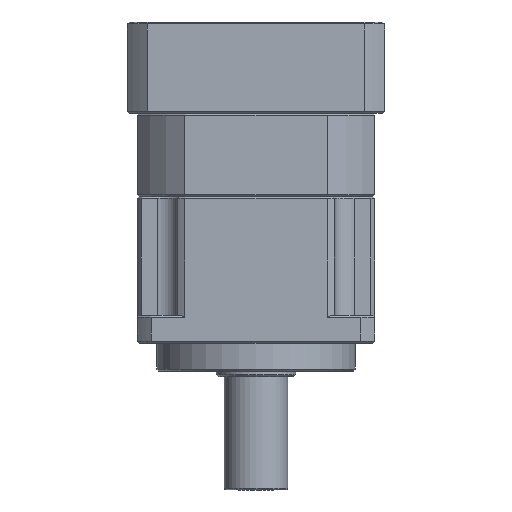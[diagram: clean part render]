
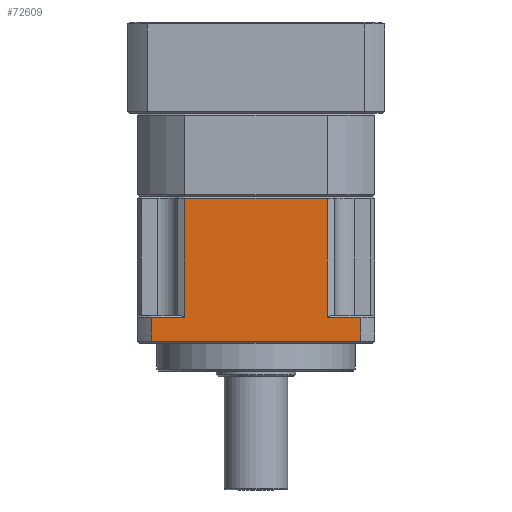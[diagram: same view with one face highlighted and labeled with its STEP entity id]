
A CAD part, front view. The second image highlights one B-rep face of the part: STEP entity #72609.
In plain terms, the highlighted planar face has unit normal (0, -1, 0).
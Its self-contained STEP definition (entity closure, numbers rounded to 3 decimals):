
#328 = CARTESIAN_POINT ( 'NONE',  ( -38.231, -27.039, 110.502 ) ) ;
#4723 = DIRECTION ( 'NONE',  ( 0., 0., 1. ) ) ;
#9610 = DIRECTION ( 'NONE',  ( -1., 0., 0. ) ) ;
#10279 = VECTOR ( 'NONE', #4723, 1000. ) ;
#10462 = LINE ( 'NONE', #35725, #78656 ) ;
#11284 = LINE ( 'NONE', #92076, #52967 ) ;
#15157 = CARTESIAN_POINT ( 'NONE',  ( -46.661, -27.039, 111.002 ) ) ;
#15531 = ORIENTED_EDGE ( 'NONE', *, *, #114365, .F. ) ;
#15756 = CARTESIAN_POINT ( 'NONE',  ( 9.797, -27.039, 80.502 ) ) ;
#16424 = EDGE_CURVE ( 'NONE', #90820, #90130, #10462, .T. ) ;
#20536 = VERTEX_POINT ( 'NONE', #114871 ) ;
#21876 = ORIENTED_EDGE ( 'NONE', *, *, #86902, .F. ) ;
#22777 = CARTESIAN_POINT ( 'NONE',  ( -46.661, -27.039, 74.502 ) ) ;
#22811 = DIRECTION ( 'NONE',  ( 1., 0., 0. ) ) ;
#24662 = DIRECTION ( 'NONE',  ( 1., 0., 0. ) ) ;
#25306 = EDGE_CURVE ( 'NONE', #29678, #88062, #11284, .T. ) ;
#26048 = ORIENTED_EDGE ( 'NONE', *, *, #66383, .F. ) ;
#26269 = LINE ( 'NONE', #15157, #73541 ) ;
#26656 = VECTOR ( 'NONE', #24662, 1000. ) ;
#29678 = VERTEX_POINT ( 'NONE', #58358 ) ;
#31100 = LINE ( 'NONE', #84522, #10279 ) ;
#31752 = ORIENTED_EDGE ( 'NONE', *, *, #25306, .F. ) ;
#33354 = EDGE_CURVE ( 'NONE', #20536, #90130, #31100, .T. ) ;
#35725 = CARTESIAN_POINT ( 'NONE',  ( -50.203, -27.039, 110.502 ) ) ;
#36378 = LINE ( 'NONE', #75645, #59968 ) ;
#36685 = VERTEX_POINT ( 'NONE', #71514 ) ;
#37332 = VERTEX_POINT ( 'NONE', #93523 ) ;
#39450 = DIRECTION ( 'NONE',  ( 0., 1., 0. ) ) ;
#49493 = ORIENTED_EDGE ( 'NONE', *, *, #56479, .F. ) ;
#50753 = LINE ( 'NONE', #98696, #68887 ) ;
#52967 = VECTOR ( 'NONE', #100959, 1000. ) ;
#53057 = LINE ( 'NONE', #15756, #26656 ) ;
#54205 = CARTESIAN_POINT ( 'NONE',  ( 6.254, -27.039, 74.502 ) ) ;
#56479 = EDGE_CURVE ( 'NONE', #37332, #29678, #36378, .T. ) ;
#56942 = PLANE ( 'NONE',  #107056 ) ;
#57797 = EDGE_CURVE ( 'NONE', #91793, #36685, #26269, .T. ) ;
#58358 = CARTESIAN_POINT ( 'NONE',  ( 6.254, -27.039, 80.502 ) ) ;
#59968 = VECTOR ( 'NONE', #22811, 1000. ) ;
#60897 = VECTOR ( 'NONE', #67316, 1000. ) ;
#66383 = EDGE_CURVE ( 'NONE', #88062, #91793, #50753, .T. ) ;
#66786 = FACE_OUTER_BOUND ( 'NONE', #77817, .T. ) ;
#67316 = DIRECTION ( 'NONE',  ( 0., 0., -1. ) ) ;
#68404 = DIRECTION ( 'NONE',  ( 0., 0., 1. ) ) ;
#68887 = VECTOR ( 'NONE', #9610, 1000. ) ;
#71514 = CARTESIAN_POINT ( 'NONE',  ( -46.661, -27.039, 80.502 ) ) ;
#71988 = ORIENTED_EDGE ( 'NONE', *, *, #57797, .F. ) ;
#72609 = ADVANCED_FACE ( 'NONE', ( #66786 ), #56942, .F. ) ;
#73541 = VECTOR ( 'NONE', #68404, 1000. ) ;
#75475 = CARTESIAN_POINT ( 'NONE',  ( -2.175, -27.039, 110.502 ) ) ;
#75645 = CARTESIAN_POINT ( 'NONE',  ( 9.797, -27.039, 80.502 ) ) ;
#77817 = EDGE_LOOP ( 'NONE', ( #15531, #100174, #105905, #21876, #71988, #26048, #31752, #49493 ) ) ;
#78656 = VECTOR ( 'NONE', #89901, 1000. ) ;
#84522 = CARTESIAN_POINT ( 'NONE',  ( -38.231, -27.039, 111.002 ) ) ;
#84618 = LINE ( 'NONE', #93850, #60897 ) ;
#86902 = EDGE_CURVE ( 'NONE', #36685, #20536, #53057, .T. ) ;
#88062 = VERTEX_POINT ( 'NONE', #54205 ) ;
#89901 = DIRECTION ( 'NONE',  ( -1., 0., 0. ) ) ;
#90130 = VERTEX_POINT ( 'NONE', #328 ) ;
#90820 = VERTEX_POINT ( 'NONE', #75475 ) ;
#91793 = VERTEX_POINT ( 'NONE', #22777 ) ;
#92076 = CARTESIAN_POINT ( 'NONE',  ( 6.254, -27.039, 111.002 ) ) ;
#92851 = CARTESIAN_POINT ( 'NONE',  ( 9.797, -27.039, 111.002 ) ) ;
#93523 = CARTESIAN_POINT ( 'NONE',  ( -2.175, -27.039, 80.502 ) ) ;
#93850 = CARTESIAN_POINT ( 'NONE',  ( -2.175, -27.039, 111.002 ) ) ;
#98696 = CARTESIAN_POINT ( 'NONE',  ( 9.797, -27.039, 74.502 ) ) ;
#100174 = ORIENTED_EDGE ( 'NONE', *, *, #16424, .T. ) ;
#100959 = DIRECTION ( 'NONE',  ( 0., 0., -1. ) ) ;
#101755 = DIRECTION ( 'NONE',  ( 0., 0., 1. ) ) ;
#105905 = ORIENTED_EDGE ( 'NONE', *, *, #33354, .F. ) ;
#107056 = AXIS2_PLACEMENT_3D ( 'NONE', #92851, #39450, #101755 ) ;
#114365 = EDGE_CURVE ( 'NONE', #90820, #37332, #84618, .T. ) ;
#114871 = CARTESIAN_POINT ( 'NONE',  ( -38.231, -27.039, 80.502 ) ) ;
